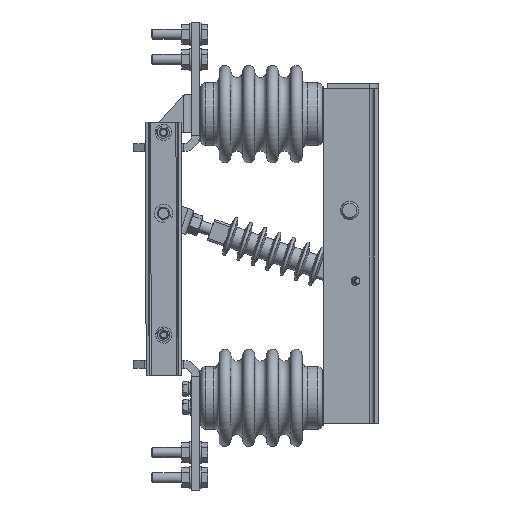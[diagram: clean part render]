
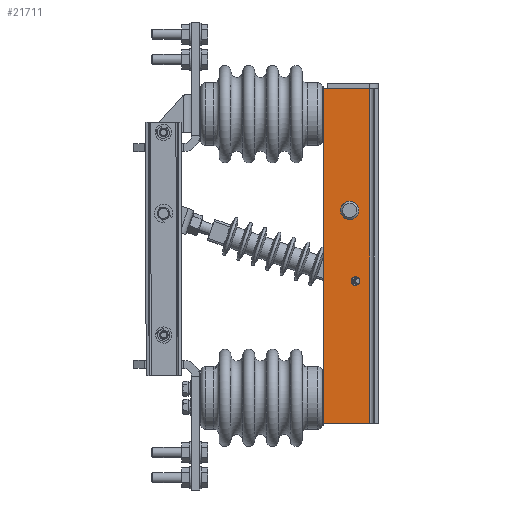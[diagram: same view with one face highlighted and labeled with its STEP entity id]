
A CAD part, left-side view. The second image highlights one B-rep face of the part: STEP entity #21711.
In plain terms, the highlighted planar face has unit normal (-1, 0, 0).
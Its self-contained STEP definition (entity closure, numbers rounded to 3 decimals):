
#6745 = AXIS2_PLACEMENT_3D ( 'NONE', #64064, #11337, #72897 ) ;
#7874 = AXIS2_PLACEMENT_3D ( 'NONE', #32682, #94288, #41556 ) ;
#9131 = EDGE_CURVE ( 'NONE', #36529, #112524, #29777, .T. ) ;
#11337 = DIRECTION ( 'NONE',  ( 1., 0., 0. ) ) ;
#14609 = VERTEX_POINT ( 'NONE', #72924 ) ;
#18041 = FACE_BOUND ( 'NONE', #74154, .T. ) ;
#20413 = LINE ( 'NONE', #56932, #85007 ) ;
#21711 = ADVANCED_FACE ( 'NONE', ( #108975, #18041, #64895 ), #23138, .T. ) ;
#23138 = PLANE ( 'NONE',  #7874 ) ;
#24086 = DIRECTION ( 'NONE',  ( 0., 0., 1. ) ) ;
#26501 = EDGE_CURVE ( 'NONE', #31352, #31352, #59690, .T. ) ;
#29777 = LINE ( 'NONE', #41917, #97283 ) ;
#31352 = VERTEX_POINT ( 'NONE', #72290 ) ;
#32682 = CARTESIAN_POINT ( 'NONE',  ( -238.404, 49.996, -159.998 ) ) ;
#33289 = CARTESIAN_POINT ( 'NONE',  ( -238.404, 7.996, 170.002 ) ) ;
#36529 = VERTEX_POINT ( 'NONE', #57454 ) ;
#38565 = VERTEX_POINT ( 'NONE', #33289 ) ;
#38759 = AXIS2_PLACEMENT_3D ( 'NONE', #41230, #102861, #50106 ) ;
#41230 = CARTESIAN_POINT ( 'NONE',  ( -238.404, 27.996, 50.002 ) ) ;
#41556 = DIRECTION ( 'NONE',  ( 0., 1., 0. ) ) ;
#41917 = CARTESIAN_POINT ( 'NONE',  ( -238.404, 49.996, -159.998 ) ) ;
#42309 = DIRECTION ( 'NONE',  ( 0., 1., 0. ) ) ;
#44540 = ORIENTED_EDGE ( 'NONE', *, *, #95809, .T. ) ;
#46878 = EDGE_CURVE ( 'NONE', #38565, #52784, #20413, .T. ) ;
#47641 = EDGE_CURVE ( 'NONE', #112524, #52784, #55853, .T. ) ;
#48221 = LINE ( 'NONE', #49493, #97791 ) ;
#49493 = CARTESIAN_POINT ( 'NONE',  ( -238.404, 7.996, -159.998 ) ) ;
#50106 = DIRECTION ( 'NONE',  ( 0., 0., 1. ) ) ;
#52784 = VERTEX_POINT ( 'NONE', #100284 ) ;
#53070 = VECTOR ( 'NONE', #95952, 1000. ) ;
#55003 = EDGE_CURVE ( 'NONE', #36529, #38565, #48221, .T. ) ;
#55853 = LINE ( 'NONE', #87447, #53070 ) ;
#56932 = CARTESIAN_POINT ( 'NONE',  ( -238.404, 49.996, 170.002 ) ) ;
#57454 = CARTESIAN_POINT ( 'NONE',  ( -238.404, 7.996, -159.998 ) ) ;
#59690 = CIRCLE ( 'NONE', #38759, 9. ) ;
#64064 = CARTESIAN_POINT ( 'NONE',  ( -238.404, 22.396, -19.773 ) ) ;
#64895 = FACE_BOUND ( 'NONE', #95268, .T. ) ;
#65754 = DIRECTION ( 'NONE',  ( 0., 1., 0. ) ) ;
#69708 = CARTESIAN_POINT ( 'NONE',  ( -238.404, 53.996, -159.998 ) ) ;
#71634 = ORIENTED_EDGE ( 'NONE', *, *, #46878, .T. ) ;
#72290 = CARTESIAN_POINT ( 'NONE',  ( -238.404, 27.996, 59.002 ) ) ;
#72897 = DIRECTION ( 'NONE',  ( 0., 0., 1. ) ) ;
#72924 = CARTESIAN_POINT ( 'NONE',  ( -238.404, 22.396, -15.623 ) ) ;
#74154 = EDGE_LOOP ( 'NONE', ( #83439 ) ) ;
#78577 = CIRCLE ( 'NONE', #6745, 4.15 ) ;
#78916 = ORIENTED_EDGE ( 'NONE', *, *, #55003, .T. ) ;
#81661 = ORIENTED_EDGE ( 'NONE', *, *, #9131, .F. ) ;
#82276 = EDGE_LOOP ( 'NONE', ( #81661, #78916, #71634, #108001 ) ) ;
#83439 = ORIENTED_EDGE ( 'NONE', *, *, #26501, .F. ) ;
#85007 = VECTOR ( 'NONE', #65754, 1000. ) ;
#87447 = CARTESIAN_POINT ( 'NONE',  ( -238.404, 53.996, -159.998 ) ) ;
#94288 = DIRECTION ( 'NONE',  ( -1., 0., 0. ) ) ;
#95268 = EDGE_LOOP ( 'NONE', ( #44540 ) ) ;
#95809 = EDGE_CURVE ( 'NONE', #14609, #14609, #78577, .T. ) ;
#95952 = DIRECTION ( 'NONE',  ( 0., 0., 1. ) ) ;
#97283 = VECTOR ( 'NONE', #42309, 1000. ) ;
#97791 = VECTOR ( 'NONE', #24086, 1000. ) ;
#100284 = CARTESIAN_POINT ( 'NONE',  ( -238.404, 53.996, 170.002 ) ) ;
#102861 = DIRECTION ( 'NONE',  ( -1., 0., 0. ) ) ;
#108001 = ORIENTED_EDGE ( 'NONE', *, *, #47641, .F. ) ;
#108975 = FACE_OUTER_BOUND ( 'NONE', #82276, .T. ) ;
#112524 = VERTEX_POINT ( 'NONE', #69708 ) ;
